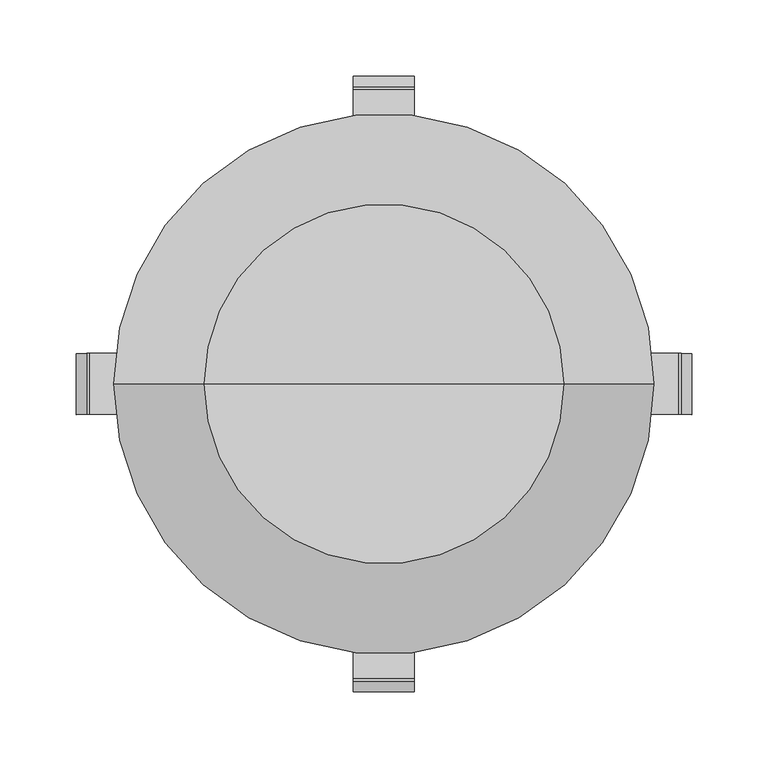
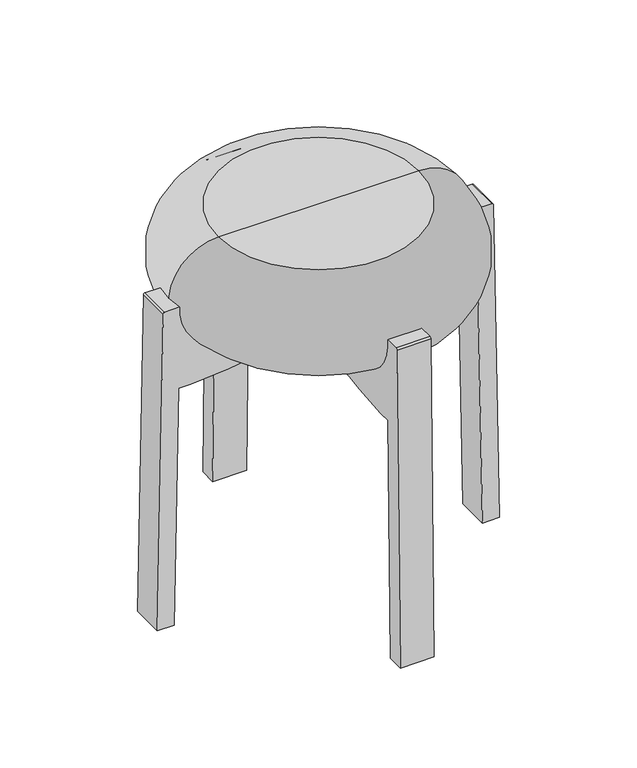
"""IFC4 building model written with IfcOpenShell, lengths in millimetres: furniture geometry, Fredericia - Pioneer Stool - 6830 : Fredericia - Pioneer Stool - 6830."""

from ifc_helpers import new_model, si_unit, point, frame, frame_2d, origin, place, context, project, spatial, polyline, circle_curve, ellipse_curve, trimmed, segment, composite_curve, outline, extrude, source, transform, mapped, element, save
from ifc_brep_helpers import plane_surface, revolved_surface, advanced_brep


def furniture_5f3fde73(model_context):
    return source(origin(), model_context, "Body", "SolidModel", [
        advanced_brep(
        [(0.0, 0.0, 450.0), (117.9870051, 0.0, 450.0), (-117.9870051, 0.0, 450.0), (-117.9870051, 0.0, 330.9896967), (117.9870051, 0.0, 330.9896967), (0.0, 0.0, 330.9896967)],
        [
            (0, 1),
            (1, 2, circle_curve(frame((0.0, 0.0, 450.0), z_axis=(0.0, 0.0, 1.0), x_axis=(1.0, 0.0, 0.0)), 117.9870051)),
            (2, 0),
            (2, 1, circle_curve(frame((0.0, 0.0, 450.0), z_axis=(0.0, 0.0, 1.0), x_axis=(1.0, 0.0, 0.0)), 117.9870051)),
            (3, 4, circle_curve(frame((0.0, 0.0, 330.9896967), z_axis=(0.0, 0.0, -1.0), x_axis=(1.0, 0.0, 0.0)), 117.9870051)),
            (4, 5),
            (5, 3),
            (4, 3, circle_curve(frame((0.0, 0.0, 330.9896967), z_axis=(0.0, 0.0, -1.0), x_axis=(1.0, 0.0, 0.0)), 117.9870051)),
            (1, 4, circle_curve(frame((117.9870051, 0.0, 390.4948483), z_axis=(0.0, 1.0, 0.0), x_axis=(1.0, 0.0, 0.0)), 59.5051517)),
            (3, 2, circle_curve(frame((-117.9870051, 0.0, 390.4948483), z_axis=(0.0, 1.0, 0.0), x_axis=(-1.0, 0.0, 0.0)), 59.5051517)),
        ],
        [
            plane_surface(frame((0.0, 0.0, 450.0), z_axis=(0.0, 0.0, 1.0), x_axis=(1.0, 0.0, 0.0))),
            plane_surface(frame((0.0, 0.0, 330.9896967), z_axis=(0.0, 0.0, -1.0), x_axis=(1.0, 0.0, 0.0))),
            revolved_surface(trimmed(ellipse_curve(frame((117.9870051, 0.0, 390.4948483), z_axis=(0.0, -1.0, 0.0), x_axis=(1.0, 0.0, 0.0)), 59.5051517, 59.5051517), [point((117.9870051, 0.0, 330.9896967))], [point((117.9870051, 0.0, 450.0))], True, "CARTESIAN"), (0.0, 0.0, 489.4896967), (0.0, 0.0, 1.0)),
        ],
        [
            (0, [[1, 2, 3]]),
            (0, [[-3, 4, -1]]),
            (1, [[5, 6, 7]]),
            (1, [[8, -7, -6]]),
            (2, [[-2, 9, -5, 10]]),
            (2, [[-4, -10, -8, -9]]),
        ],
    ),
        extrude(outline(composite_curve([segment(polyline([(394.4896967, 193.0289245), (394.4896967, 174.9912725), (393.5758804, 175.0072232)]), True, "CONTINUOUS"), segment(trimmed(circle_curve(frame_2d((392.553796, 116.4520435)), 58.5640993), [point((393.5758804, 175.0072232))], [point((333.9896967, 116.4520435))], True, "CARTESIAN"), True, "CONTINUOUS"), segment(polyline([(333.9896967, 116.4520435), (333.9896967, 20.0), (320.9896967, 20.0), (320.9896967, 0.0), (320.9896967, -20.0), (333.9896967, -20.0), (333.9896967, -116.4520435)]), True, "CONTINUOUS"), segment(trimmed(circle_curve(frame_2d((392.553796, -116.4520435)), 58.5640993), [point((333.9896967, -116.4520435))], [point((393.5758804, -175.0072232))], True, "CARTESIAN"), True, "CONTINUOUS"), segment(polyline([(393.5758804, -175.0072232), (394.4896967, -174.9912725), (394.4896967, -193.0289245)]), True, "CONTINUOUS"), segment(trimmed(circle_curve(frame_2d((392.4896967, -193.0289245)), 2.0), [point((394.4896967, -193.0289245))], [point((392.5246015, -195.0286199))], False, "CARTESIAN"), True, "CONTINUOUS"), segment(polyline([(392.5246015, -195.0286199), (0.0, -201.8801623), (0.0, -181.8771157), (293.7396967, -176.7498703), (293.7396967, -162.8043593)]), True, "CONTINUOUS"), segment(trimmed(circle_curve(frame_2d((580.087552, -162.8043593)), 286.3478554), [point((293.7396967, -162.8043593))], [point((297.265114, -118.0096857))], False, "CARTESIAN"), True, "CONTINUOUS"), segment(polyline([(297.265114, -118.0096857), (300.5031496, -97.5655332)]), True, "CONTINUOUS"), segment(trimmed(circle_curve(frame_2d((20.7990259, -53.2647521)), 283.1906708), [point((300.5031496, -97.5655332))], [point((303.9896967, -53.2647521))], True, "CARTESIAN"), True, "CONTINUOUS"), segment(polyline([(303.9896967, -53.2647521), (303.9896967, 1.9722781), (303.9896967, 53.2647521)]), True, "CONTINUOUS"), segment(trimmed(circle_curve(frame_2d((20.7990259, 53.2647521)), 283.1906708), [point((303.9896967, 53.2647521))], [point((300.5031496, 97.5655332))], True, "CARTESIAN"), True, "CONTINUOUS"), segment(polyline([(300.5031496, 97.5655332), (297.265114, 118.0096857)]), True, "CONTINUOUS"), segment(trimmed(circle_curve(frame_2d((580.087552, 162.8043593)), 286.3478554), [point((297.265114, 118.0096857))], [point((293.7396967, 162.8043593))], False, "CARTESIAN"), True, "CONTINUOUS"), segment(polyline([(293.7396967, 162.8043593), (293.7396967, 176.7498703), (0.0, 181.8771157), (0.0, 201.8801623), (392.5246015, 195.0286199)]), True, "CONTINUOUS"), segment(trimmed(circle_curve(frame_2d((392.4896967, 193.0289245)), 2.0), [point((392.5246015, 195.0286199))], [point((394.4896967, 193.0289245))], False, "CARTESIAN"), True, "CONTINUOUS")], self_intersect=False)), frame((0.0, -20.0, 0.0), z_axis=(0.0, 1.0, 0.0), x_axis=(0.0, 0.0, 1.0)), (0.0, 0.0, 1.0), 40.0),
        extrude(outline(composite_curve([segment(trimmed(circle_curve(frame_2d((193.0289245, 392.4896967)), 2.0), [point((193.0289245, 394.4896967))], [point((195.0286199, 392.5246015))], False, "CARTESIAN"), True, "CONTINUOUS"), segment(polyline([(195.0286199, 392.5246015), (201.8801623, 0.0), (181.8771157, 0.0), (176.7498703, 293.7396967), (162.8043593, 293.7396967)]), True, "CONTINUOUS"), segment(trimmed(circle_curve(frame_2d((162.8043593, 580.087552)), 286.3478554), [point((162.8043593, 293.7396967))], [point((118.0096857, 297.265114))], False, "CARTESIAN"), True, "CONTINUOUS"), segment(polyline([(118.0096857, 297.265114), (97.5655332, 300.5031496)]), True, "CONTINUOUS"), segment(trimmed(circle_curve(frame_2d((53.2647521, 20.7990259)), 283.1906708), [point((97.5655332, 300.5031496))], [point((53.2647521, 303.9896967))], True, "CARTESIAN"), True, "CONTINUOUS"), segment(polyline([(53.2647521, 303.9896967), (20.0, 303.9896967), (20.0, 320.9896967), (0.0, 320.9896967), (-20.0, 320.9896967), (-20.0, 303.9896967), (-53.2647521, 303.9896967)]), True, "CONTINUOUS"), segment(trimmed(circle_curve(frame_2d((-53.2647521, 20.7990259)), 283.1906708), [point((-53.2647521, 303.9896967))], [point((-97.5655332, 300.5031496))], True, "CARTESIAN"), True, "CONTINUOUS"), segment(polyline([(-97.5655332, 300.5031496), (-118.0096857, 297.265114)]), True, "CONTINUOUS"), segment(trimmed(circle_curve(frame_2d((-162.8043593, 580.087552)), 286.3478554), [point((-118.0096857, 297.265114))], [point((-162.8043593, 293.7396967))], False, "CARTESIAN"), True, "CONTINUOUS"), segment(polyline([(-162.8043593, 293.7396967), (-176.7498703, 293.7396967), (-181.8771157, 0.0), (-201.8801623, 0.0), (-195.0286199, 392.5246015)]), True, "CONTINUOUS"), segment(trimmed(circle_curve(frame_2d((-193.0289245, 392.4896967)), 2.0), [point((-195.0286199, 392.5246015))], [point((-193.0289245, 394.4896967))], False, "CARTESIAN"), True, "CONTINUOUS"), segment(polyline([(-193.0289245, 394.4896967), (-174.9912725, 394.4896967), (-175.0072232, 393.5758804)]), True, "CONTINUOUS"), segment(trimmed(circle_curve(frame_2d((-116.4520435, 392.553796)), 58.5640993), [point((-175.0072232, 393.5758804))], [point((-116.4520435, 333.9896967))], True, "CARTESIAN"), True, "CONTINUOUS"), segment(polyline([(-116.4520435, 333.9896967), (0.0, 333.9896967), (116.4520435, 333.9896967)]), True, "CONTINUOUS"), segment(trimmed(circle_curve(frame_2d((116.4520435, 392.553796)), 58.5640993), [point((116.4520435, 333.9896967))], [point((175.0072232, 393.5758804))], True, "CARTESIAN"), True, "CONTINUOUS"), segment(polyline([(175.0072232, 393.5758804), (174.9912725, 394.4896967), (193.0289245, 394.4896967)]), True, "CONTINUOUS")], self_intersect=False)), frame((-20.0, 0.0, 0.0), z_axis=(1.0, 0.0, 0.0), x_axis=(0.0, 1.0, 0.0)), (0.0, 0.0, 1.0), 40.0),
    ])


if __name__ == "__main__":
    model = new_model("IFC4")
    model_context = context("Model", 3, world=origin())
    ifc_project = project(units=[si_unit("LENGTHUNIT", "METRE", prefix="MILLI")], contexts=[model_context])
    site = spatial("IfcSite", under=ifc_project)
    building = spatial("IfcBuilding", under=site)
    placement = place(None, origin())
    furniture_shape = furniture_5f3fde73(model_context)
    element("IfcFurniture", 1, ObjectType="Fredericia - Pioneer Stool - 6830 : Fredericia - Pioneer Stool - 6830", at=placement, inside=building, context=model_context, shape_type="MappedRepresentation", body=[
        mapped(furniture_shape, transform((0.0, 0.0, 0.0), x_axis=(1.0, 0.0, 0.0), y_axis=(0.0, 1.0, 0.0), z_axis=(0.0, 0.0, 1.0))),
    ])
    save(model, "model.ifc")
